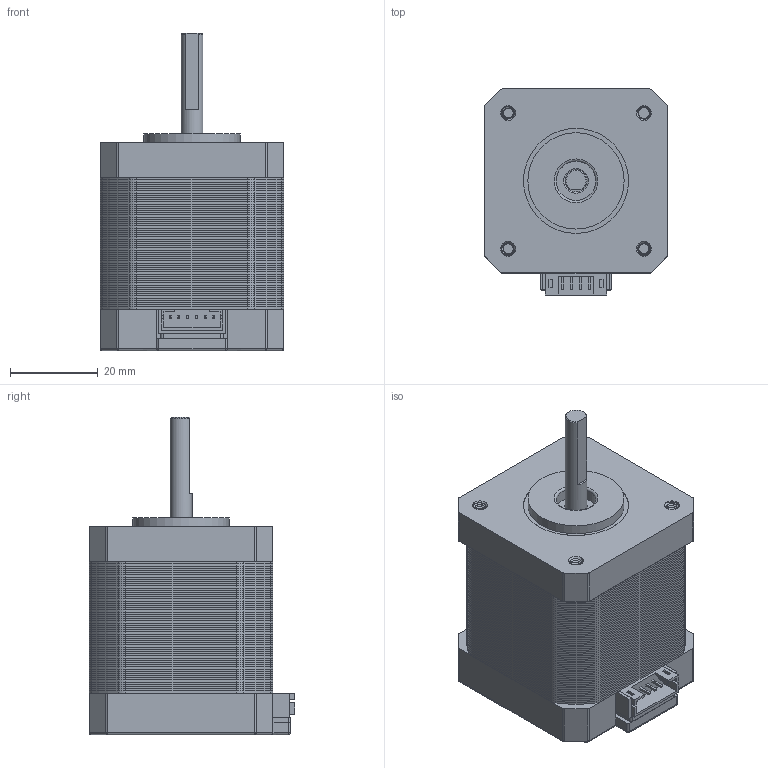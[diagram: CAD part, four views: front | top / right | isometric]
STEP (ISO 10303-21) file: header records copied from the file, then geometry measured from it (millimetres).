
FILE_DESCRIPTION(/* description */ (''),/* implementation_level */ '2;1');
FILE_NAME(/* name */ 'Nema17 4.4Kgcm Stepper Motor.step',/* time_stamp */ '2026-02-10T15:44:18+05:30',/* author */ (''),/* organization */ (''),/* preprocessor_version */ 'ST-DEVELOPER v20.1',/* originating_system */ 'Autodesk Translation Framework v14.24.0.0',/* authorisation */ '');
FILE_SCHEMA (('AUTOMOTIVE_DESIGN { 1 0 10303 214 3 1 1 }'));
Length unit declared in the file: millimetre
Products named in the file (3): Stepper Motor Nema17 4.4Kgcm; Motor; Shaft
Assembly tree (2 placements, depth 2):
  Stepper Motor Nema17 4.4Kgcm
    Motor
    Shaft
Bounding box: 42 x 47 x 72.5 mm (x, y, z)
Volume: 81251.2 mm3; surface area: 21544.8 mm2
Topology: 7 solids, 7 shells, 1486 faces, 3280 edges, 1834 vertices
Faces by surface type: cylinder 936, plane 454, bspline 40, cone 22, torus 20, sphere 14
Full cylindrical faces by diameter (mm): 2.529 x8, 3.086 x23, 5 x63, 5.6 x4, 6.7 x4, 9 x2, 22 x1, 24 x1
Entity records: 47211 total; most frequent: CARTESIAN_POINT 14177, DIRECTION 7142, ORIENTED_EDGE 6560, EDGE_CURVE 3280, AXIS2_PLACEMENT_3D 2648, LINE 1846, VECTOR 1846, VERTEX_POINT 1834
